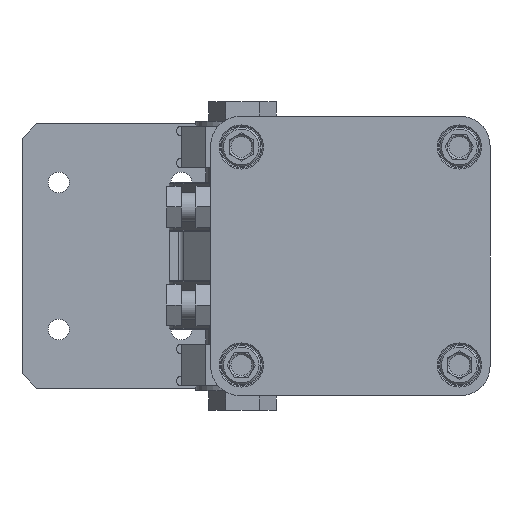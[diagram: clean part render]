
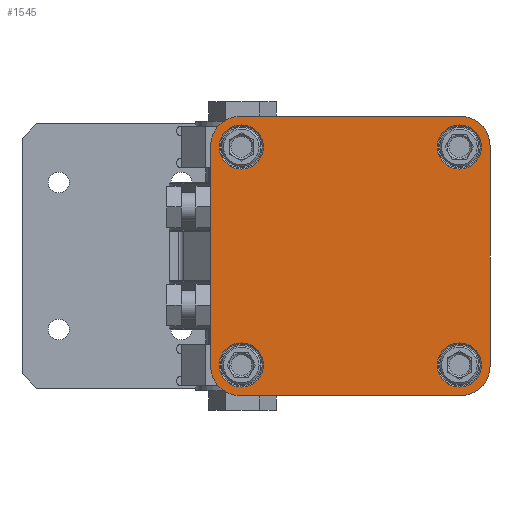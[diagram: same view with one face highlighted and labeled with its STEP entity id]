
A CAD part, front view. The second image highlights one B-rep face of the part: STEP entity #1545.
In plain terms, the highlighted planar face has unit normal (0, -1, 0).
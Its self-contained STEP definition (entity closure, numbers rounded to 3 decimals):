
#1545=ADVANCED_FACE('',(#4924,#4925,#4926,#4927,#4928),#2193,.F.);
#2193=PLANE('',#14577);
#3016=LINE('',#21432,#4074);
#3017=LINE('',#21437,#4075);
#3018=LINE('',#21441,#4076);
#3019=LINE('',#21445,#4077);
#4074=VECTOR('',#17487,1.);
#4075=VECTOR('',#17490,1.);
#4076=VECTOR('',#17493,1.);
#4077=VECTOR('',#17496,1.);
#4924=FACE_BOUND('',#5944,.T.);
#4925=FACE_BOUND('',#5945,.T.);
#4926=FACE_BOUND('',#5946,.T.);
#4927=FACE_BOUND('',#5947,.T.);
#4928=FACE_BOUND('',#5948,.T.);
#5944=EDGE_LOOP('',(#8492,#8493,#8494,#8495,#8496,#8497,#8498,#8499));
#5945=EDGE_LOOP('',(#8500));
#5946=EDGE_LOOP('',(#8501));
#5947=EDGE_LOOP('',(#8502));
#5948=EDGE_LOOP('',(#8503));
#8492=ORIENTED_EDGE('',*,*,#12292,.F.);
#8493=ORIENTED_EDGE('',*,*,#12293,.T.);
#8494=ORIENTED_EDGE('',*,*,#12294,.F.);
#8495=ORIENTED_EDGE('',*,*,#12295,.T.);
#8496=ORIENTED_EDGE('',*,*,#12296,.F.);
#8497=ORIENTED_EDGE('',*,*,#12297,.T.);
#8498=ORIENTED_EDGE('',*,*,#12298,.F.);
#8499=ORIENTED_EDGE('',*,*,#12299,.T.);
#8500=ORIENTED_EDGE('',*,*,#12300,.T.);
#8501=ORIENTED_EDGE('',*,*,#12291,.T.);
#8502=ORIENTED_EDGE('',*,*,#12301,.T.);
#8503=ORIENTED_EDGE('',*,*,#12302,.T.);
#10763=VERTEX_POINT('',#21430);
#10764=VERTEX_POINT('',#21433);
#10765=VERTEX_POINT('',#21434);
#10766=VERTEX_POINT('',#21436);
#10767=VERTEX_POINT('',#21438);
#10768=VERTEX_POINT('',#21440);
#10769=VERTEX_POINT('',#21442);
#10770=VERTEX_POINT('',#21444);
#10771=VERTEX_POINT('',#21446);
#10772=VERTEX_POINT('',#21449);
#10773=VERTEX_POINT('',#21451);
#10774=VERTEX_POINT('',#21453);
#12291=EDGE_CURVE('',#10763,#10763,#13486,.T.);
#12292=EDGE_CURVE('',#10764,#10765,#3016,.T.);
#12293=EDGE_CURVE('',#10764,#10766,#13487,.T.);
#12294=EDGE_CURVE('',#10767,#10766,#3017,.T.);
#12295=EDGE_CURVE('',#10767,#10768,#13488,.T.);
#12296=EDGE_CURVE('',#10769,#10768,#3018,.T.);
#12297=EDGE_CURVE('',#10769,#10770,#13489,.T.);
#12298=EDGE_CURVE('',#10771,#10770,#3019,.T.);
#12299=EDGE_CURVE('',#10771,#10765,#13490,.T.);
#12300=EDGE_CURVE('',#10772,#10772,#13491,.T.);
#12301=EDGE_CURVE('',#10773,#10773,#13492,.T.);
#12302=EDGE_CURVE('',#10774,#10774,#13493,.T.);
#13486=CIRCLE('',#14568,9.);
#13487=CIRCLE('',#14570,12.);
#13488=CIRCLE('',#14571,12.);
#13489=CIRCLE('',#14572,12.);
#13490=CIRCLE('',#14573,12.);
#13491=CIRCLE('',#14574,9.);
#13492=CIRCLE('',#14575,9.);
#13493=CIRCLE('',#14576,9.);
#14568=AXIS2_PLACEMENT_3D('',#21429,#17483,#17484);
#14570=AXIS2_PLACEMENT_3D('',#21435,#17488,#17489);
#14571=AXIS2_PLACEMENT_3D('',#21439,#17491,#17492);
#14572=AXIS2_PLACEMENT_3D('',#21443,#17494,#17495);
#14573=AXIS2_PLACEMENT_3D('',#21447,#17497,#17498);
#14574=AXIS2_PLACEMENT_3D('',#21448,#17499,#17500);
#14575=AXIS2_PLACEMENT_3D('',#21450,#17501,#17502);
#14576=AXIS2_PLACEMENT_3D('',#21452,#17503,#17504);
#14577=AXIS2_PLACEMENT_3D('',#21454,#17505,#17506);
#17483=DIRECTION('',(0.,1.,0.));
#17484=DIRECTION('',(-1.,0.,0.));
#17487=DIRECTION('',(1.,0.,0.));
#17488=DIRECTION('',(0.,-1.,0.));
#17489=DIRECTION('',(0.,0.,1.));
#17490=DIRECTION('',(0.,0.,1.));
#17491=DIRECTION('',(0.,-1.,0.));
#17492=DIRECTION('',(-1.,0.,0.));
#17493=DIRECTION('',(-1.,0.,0.));
#17494=DIRECTION('',(0.,-1.,0.));
#17495=DIRECTION('',(0.,0.,-1.));
#17496=DIRECTION('',(0.,0.,-1.));
#17497=DIRECTION('',(0.,-1.,0.));
#17498=DIRECTION('',(1.,0.,0.));
#17499=DIRECTION('',(0.,1.,0.));
#17500=DIRECTION('',(1.,0.,0.));
#17501=DIRECTION('',(0.,1.,0.));
#17502=DIRECTION('',(1.,0.,0.));
#17503=DIRECTION('',(0.,1.,0.));
#17504=DIRECTION('',(1.,0.,0.));
#17505=DIRECTION('',(0.,1.,0.));
#17506=DIRECTION('',(-1.,0.,0.));
#21429=CARTESIAN_POINT('',(88.5,-284.5,42.5));
#21430=CARTESIAN_POINT('',(79.5,-284.5,42.5));
#21432=CARTESIAN_POINT('',(-1.,-284.5,55.));
#21433=CARTESIAN_POINT('',(-1.,-284.5,55.));
#21434=CARTESIAN_POINT('',(89.,-284.5,55.));
#21435=CARTESIAN_POINT('',(-1.,-284.5,43.));
#21436=CARTESIAN_POINT('',(-13.,-284.5,43.));
#21437=CARTESIAN_POINT('',(-13.,-284.5,-47.));
#21438=CARTESIAN_POINT('',(-13.,-284.5,-47.));
#21439=CARTESIAN_POINT('',(-1.,-284.5,-47.));
#21440=CARTESIAN_POINT('',(-1.,-284.5,-59.));
#21441=CARTESIAN_POINT('',(89.,-284.5,-59.));
#21442=CARTESIAN_POINT('',(89.,-284.5,-59.));
#21443=CARTESIAN_POINT('',(89.,-284.5,-47.));
#21444=CARTESIAN_POINT('',(101.,-284.5,-47.));
#21445=CARTESIAN_POINT('',(101.,-284.5,43.));
#21446=CARTESIAN_POINT('',(101.,-284.5,43.));
#21447=CARTESIAN_POINT('',(89.,-284.5,43.));
#21448=CARTESIAN_POINT('',(-0.5,-284.5,42.5));
#21449=CARTESIAN_POINT('',(8.5,-284.5,42.5));
#21450=CARTESIAN_POINT('',(88.5,-284.5,-46.5));
#21451=CARTESIAN_POINT('',(97.5,-284.5,-46.5));
#21452=CARTESIAN_POINT('',(-0.5,-284.5,-46.5));
#21453=CARTESIAN_POINT('',(8.5,-284.5,-46.5));
#21454=CARTESIAN_POINT('',(44.,-284.5,-2.));
